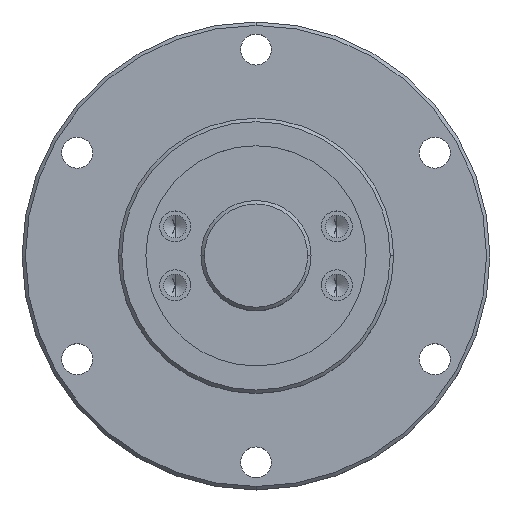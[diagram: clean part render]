
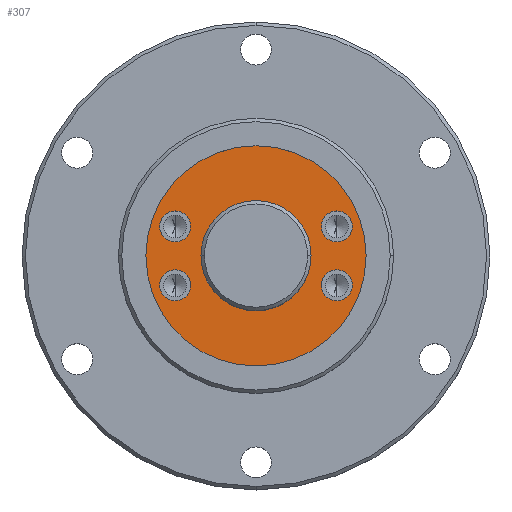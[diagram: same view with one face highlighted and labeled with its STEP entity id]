
A CAD part, top view. The second image highlights one B-rep face of the part: STEP entity #307.
In plain terms, the highlighted planar face has unit normal (0, 0, 1).
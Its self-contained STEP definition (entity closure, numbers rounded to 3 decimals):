
#2 = ORIENTED_EDGE ( 'NONE', *, *, #1041, .F. ) ;
#46 = AXIS2_PLACEMENT_3D ( 'NONE', #4979, #2513, #5377 ) ;
#80 = CIRCLE ( 'NONE', #4343, 8. ) ;
#82 = DIRECTION ( 'NONE',  ( 0., 0., 1. ) ) ;
#87 = DIRECTION ( 'NONE',  ( 1., 0., 0. ) ) ;
#116 = DIRECTION ( 'NONE',  ( 0., -1., 0. ) ) ;
#122 = CARTESIAN_POINT ( 'NONE',  ( 8., 0., 0. ) ) ;
#128 = AXIS2_PLACEMENT_3D ( 'NONE', #3615, #1154, #4027 ) ;
#167 = AXIS2_PLACEMENT_3D ( 'NONE', #1549, #4429, #1974 ) ;
#196 = CARTESIAN_POINT ( 'NONE',  ( -11.746, 4.275, 0. ) ) ;
#307 = ADVANCED_FACE ( 'NONE', ( #3162, #3459, #3156, #4660, #4651, #3341 ), #1570, .F. ) ;
#404 = VERTEX_POINT ( 'NONE', #4352 ) ;
#439 = CARTESIAN_POINT ( 'NONE',  ( 0., 0., 0. ) ) ;
#455 = ORIENTED_EDGE ( 'NONE', *, *, #3652, .F. ) ;
#522 = VERTEX_POINT ( 'NONE', #1115 ) ;
#535 = CARTESIAN_POINT ( 'NONE',  ( 9.496, 4.275, 0. ) ) ;
#641 = DIRECTION ( 'NONE',  ( -1., 0., 0. ) ) ;
#755 = CIRCLE ( 'NONE', #5335, 2.25 ) ;
#808 = ORIENTED_EDGE ( 'NONE', *, *, #4845, .F. ) ;
#897 = DIRECTION ( 'NONE',  ( 1., 0., 0. ) ) ;
#964 = EDGE_LOOP ( 'NONE', ( #455, #3595 ) ) ;
#1030 = ORIENTED_EDGE ( 'NONE', *, *, #4994, .F. ) ;
#1041 = EDGE_CURVE ( 'NONE', #404, #4675, #3048, .T. ) ;
#1115 = CARTESIAN_POINT ( 'NONE',  ( -8., 0., 0. ) ) ;
#1148 = DIRECTION ( 'NONE',  ( 0., 1., 0. ) ) ;
#1154 = DIRECTION ( 'NONE',  ( 0., 0., 1. ) ) ;
#1215 = ORIENTED_EDGE ( 'NONE', *, *, #3810, .F. ) ;
#1236 = CIRCLE ( 'NONE', #46, 2.25 ) ;
#1241 = EDGE_CURVE ( 'NONE', #522, #4388, #5087, .T. ) ;
#1303 = CARTESIAN_POINT ( 'NONE',  ( 11.746, 4.275, 0. ) ) ;
#1429 = VERTEX_POINT ( 'NONE', #1809 ) ;
#1430 = VERTEX_POINT ( 'NONE', #4279 ) ;
#1549 = CARTESIAN_POINT ( 'NONE',  ( 11.746, 4.275, 0. ) ) ;
#1570 = PLANE ( 'NONE',  #4569 ) ;
#1619 = EDGE_LOOP ( 'NONE', ( #2874, #2286 ) ) ;
#1733 = DIRECTION ( 'NONE',  ( 1., 0., 0. ) ) ;
#1809 = CARTESIAN_POINT ( 'NONE',  ( 13.996, 4.275, 0. ) ) ;
#1832 = AXIS2_PLACEMENT_3D ( 'NONE', #196, #3153, #641 ) ;
#1844 = AXIS2_PLACEMENT_3D ( 'NONE', #5135, #2668, #87 ) ;
#1964 = CARTESIAN_POINT ( 'NONE',  ( -11.746, -4.275, 0. ) ) ;
#1974 = DIRECTION ( 'NONE',  ( 1., 0., 0. ) ) ;
#2042 = CARTESIAN_POINT ( 'NONE',  ( -9.496, 4.275, 0. ) ) ;
#2065 = ORIENTED_EDGE ( 'NONE', *, *, #1241, .F. ) ;
#2074 = EDGE_LOOP ( 'NONE', ( #1215, #2065 ) ) ;
#2122 = DIRECTION ( 'NONE',  ( 0., 0., 1. ) ) ;
#2183 = DIRECTION ( 'NONE',  ( 0., 0., 1. ) ) ;
#2187 = AXIS2_PLACEMENT_3D ( 'NONE', #1303, #4187, #1733 ) ;
#2252 = CARTESIAN_POINT ( 'NONE',  ( -9.496, -4.275, 0. ) ) ;
#2286 = ORIENTED_EDGE ( 'NONE', *, *, #3148, .T. ) ;
#2334 = CIRCLE ( 'NONE', #2187, 2.25 ) ;
#2370 = AXIS2_PLACEMENT_3D ( 'NONE', #1964, #4867, #2387 ) ;
#2387 = DIRECTION ( 'NONE',  ( -1., 0., 0. ) ) ;
#2457 = VERTEX_POINT ( 'NONE', #535 ) ;
#2513 = DIRECTION ( 'NONE',  ( 0., 0., 1. ) ) ;
#2660 = CARTESIAN_POINT ( 'NONE',  ( -11.746, 4.275, 0. ) ) ;
#2668 = DIRECTION ( 'NONE',  ( 0., 0., 1. ) ) ;
#2699 = DIRECTION ( 'NONE',  ( 0., 0., 1. ) ) ;
#2745 = ORIENTED_EDGE ( 'NONE', *, *, #4148, .F. ) ;
#2833 = CIRCLE ( 'NONE', #4602, 16. ) ;
#2837 = CARTESIAN_POINT ( 'NONE',  ( 0., 16., 0. ) ) ;
#2867 = VERTEX_POINT ( 'NONE', #2252 ) ;
#2874 = ORIENTED_EDGE ( 'NONE', *, *, #3953, .T. ) ;
#2964 = CARTESIAN_POINT ( 'NONE',  ( 13.996, -4.275, 0. ) ) ;
#3017 = EDGE_LOOP ( 'NONE', ( #4348, #2745 ) ) ;
#3048 = CIRCLE ( 'NONE', #5148, 2.25 ) ;
#3059 = EDGE_CURVE ( 'NONE', #4436, #2867, #3618, .T. ) ;
#3091 = EDGE_CURVE ( 'NONE', #1429, #2457, #5205, .T. ) ;
#3097 = CARTESIAN_POINT ( 'NONE',  ( -13.996, -4.275, 0. ) ) ;
#3148 = EDGE_CURVE ( 'NONE', #3527, #3612, #5089, .T. ) ;
#3153 = DIRECTION ( 'NONE',  ( 0., 0., 1. ) ) ;
#3156 = FACE_BOUND ( 'NONE', #3939, .T. ) ;
#3162 = FACE_BOUND ( 'NONE', #2074, .T. ) ;
#3229 = CARTESIAN_POINT ( 'NONE',  ( 0., 16., 0. ) ) ;
#3277 = DIRECTION ( 'NONE',  ( -1., 0., 0. ) ) ;
#3341 = FACE_OUTER_BOUND ( 'NONE', #1619, .T. ) ;
#3363 = DIRECTION ( 'NONE',  ( 0., 0., 1. ) ) ;
#3459 = FACE_BOUND ( 'NONE', #964, .T. ) ;
#3527 = VERTEX_POINT ( 'NONE', #3229 ) ;
#3580 = EDGE_CURVE ( 'NONE', #3772, #1430, #1236, .T. ) ;
#3595 = ORIENTED_EDGE ( 'NONE', *, *, #3059, .F. ) ;
#3607 = DIRECTION ( 'NONE',  ( 0., 0., -1. ) ) ;
#3612 = VERTEX_POINT ( 'NONE', #3690 ) ;
#3615 = CARTESIAN_POINT ( 'NONE',  ( 0., 0., 0. ) ) ;
#3618 = CIRCLE ( 'NONE', #2370, 2.25 ) ;
#3652 = EDGE_CURVE ( 'NONE', #2867, #4436, #755, .T. ) ;
#3690 = CARTESIAN_POINT ( 'NONE',  ( 0., -16., 0. ) ) ;
#3772 = VERTEX_POINT ( 'NONE', #2964 ) ;
#3810 = EDGE_CURVE ( 'NONE', #4388, #522, #80, .T. ) ;
#3850 = EDGE_LOOP ( 'NONE', ( #5074, #808 ) ) ;
#3939 = EDGE_LOOP ( 'NONE', ( #1030, #2 ) ) ;
#3953 = EDGE_CURVE ( 'NONE', #3612, #3527, #2833, .T. ) ;
#4027 = DIRECTION ( 'NONE',  ( 0., -1., 0. ) ) ;
#4148 = EDGE_CURVE ( 'NONE', #2457, #1429, #2334, .T. ) ;
#4165 = CIRCLE ( 'NONE', #1832, 2.25 ) ;
#4187 = DIRECTION ( 'NONE',  ( 0., 0., 1. ) ) ;
#4279 = CARTESIAN_POINT ( 'NONE',  ( 9.496, -4.275, 0. ) ) ;
#4343 = AXIS2_PLACEMENT_3D ( 'NONE', #4638, #2183, #5079 ) ;
#4348 = ORIENTED_EDGE ( 'NONE', *, *, #3091, .F. ) ;
#4352 = CARTESIAN_POINT ( 'NONE',  ( -13.996, 4.275, 0. ) ) ;
#4388 = VERTEX_POINT ( 'NONE', #122 ) ;
#4429 = DIRECTION ( 'NONE',  ( 0., 0., 1. ) ) ;
#4436 = VERTEX_POINT ( 'NONE', #3097 ) ;
#4569 = AXIS2_PLACEMENT_3D ( 'NONE', #2837, #3607, #1148 ) ;
#4598 = CARTESIAN_POINT ( 'NONE',  ( -11.746, -4.275, 0. ) ) ;
#4602 = AXIS2_PLACEMENT_3D ( 'NONE', #5170, #2699, #116 ) ;
#4638 = CARTESIAN_POINT ( 'NONE',  ( 0., 0., 0. ) ) ;
#4651 = FACE_BOUND ( 'NONE', #3017, .T. ) ;
#4660 = FACE_BOUND ( 'NONE', #3850, .T. ) ;
#4675 = VERTEX_POINT ( 'NONE', #2042 ) ;
#4845 = EDGE_CURVE ( 'NONE', #1430, #3772, #4856, .T. ) ;
#4856 = CIRCLE ( 'NONE', #1844, 2.25 ) ;
#4867 = DIRECTION ( 'NONE',  ( 0., 0., 1. ) ) ;
#4979 = CARTESIAN_POINT ( 'NONE',  ( 11.746, -4.275, 0. ) ) ;
#4994 = EDGE_CURVE ( 'NONE', #4675, #404, #4165, .T. ) ;
#5033 = DIRECTION ( 'NONE',  ( -1., 0., 0. ) ) ;
#5074 = ORIENTED_EDGE ( 'NONE', *, *, #3580, .F. ) ;
#5079 = DIRECTION ( 'NONE',  ( 1., 0., 0. ) ) ;
#5087 = CIRCLE ( 'NONE', #5223, 8. ) ;
#5089 = CIRCLE ( 'NONE', #128, 16. ) ;
#5135 = CARTESIAN_POINT ( 'NONE',  ( 11.746, -4.275, 0. ) ) ;
#5148 = AXIS2_PLACEMENT_3D ( 'NONE', #2660, #82, #3277 ) ;
#5170 = CARTESIAN_POINT ( 'NONE',  ( 0., 0., 0. ) ) ;
#5205 = CIRCLE ( 'NONE', #167, 2.25 ) ;
#5223 = AXIS2_PLACEMENT_3D ( 'NONE', #439, #3363, #897 ) ;
#5335 = AXIS2_PLACEMENT_3D ( 'NONE', #4598, #2122, #5033 ) ;
#5377 = DIRECTION ( 'NONE',  ( 1., 0., 0. ) ) ;
